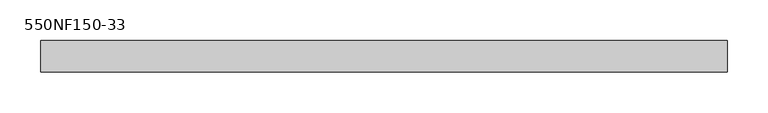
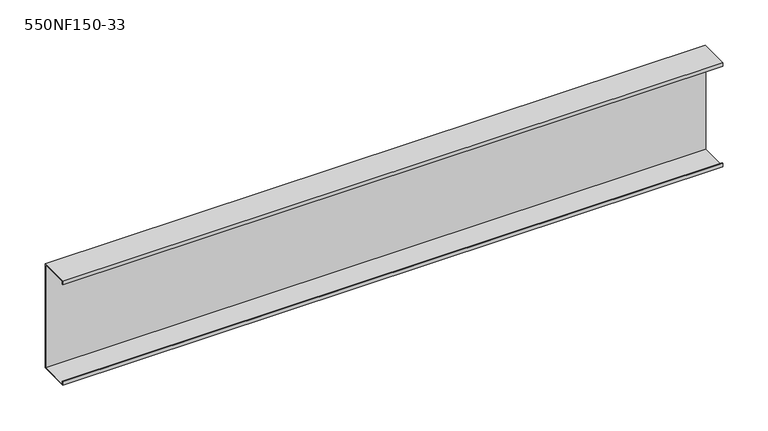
"""IFC4 building model written with IfcOpenShell, lengths in millimetres: beam geometry, BIMSF-SSMA-S : 550NF150-33."""

from ifc_helpers import new_model, si_unit, frame, origin, place, context, project, spatial, polyline, outline, extrude, source, transform, mapped, element, save


def beam_550nf150_33_4c237a5f(model_context):
    return source(origin(), model_context, "Body", "SweptSolid", [
        extrude(outline(polyline([(19.05, 69.85), (19.05, -69.85), (-19.05, -69.85), (-19.05, -65.0748), (-18.1676842, -65.0748), (-18.1676842, -68.9676842), (18.1676842, -68.9676842), (18.1676842, 68.9676842), (-18.1676842, 68.9676842), (-18.1676842, 65.0748), (-19.05, 65.0748), (-19.05, 69.85), (19.05, 69.85)])), frame((-419.1, 0.0, 0.0), z_axis=(1.0, 0.0, 0.0), x_axis=(0.0, 1.0, 0.0)), (0.0, 0.0, 1.0), 838.2),
    ])


if __name__ == "__main__":
    model = new_model("IFC4")
    model_context = context("Model", 3, world=origin())
    ifc_project = project(units=[si_unit("LENGTHUNIT", "METRE", prefix="MILLI")], contexts=[model_context])
    site = spatial("IfcSite", under=ifc_project)
    building = spatial("IfcBuilding", under=site)
    placement = place(None, origin())
    beam_550nf150_33_shape = beam_550nf150_33_4c237a5f(model_context)
    element("IfcBeam", 1, ObjectType="BIMSF-SSMA-S : 550NF150-33", at=placement, inside=building, context=model_context, shape_type="MappedRepresentation", body=[
        mapped(beam_550nf150_33_shape, transform((0.0, 0.0, 0.0), x_axis=(1.0, 0.0, 0.0), y_axis=(0.0, 1.0, 0.0), z_axis=(0.0, 0.0, 1.0))),
    ])
    save(model, "model.ifc")
